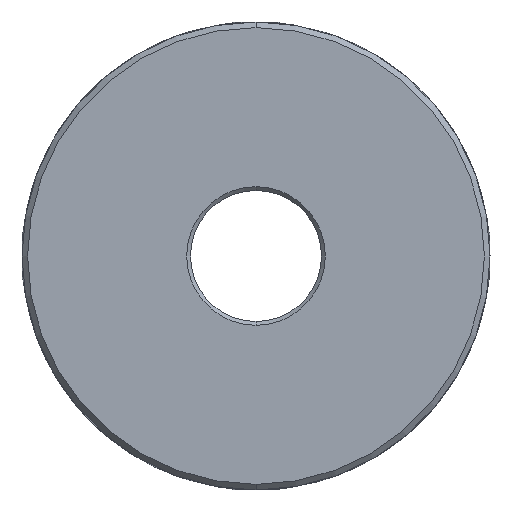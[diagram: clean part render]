
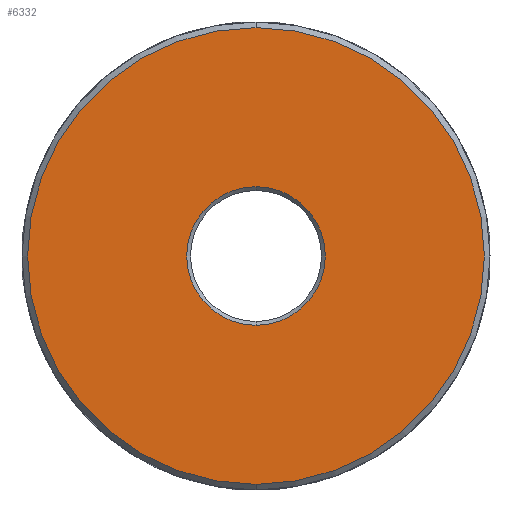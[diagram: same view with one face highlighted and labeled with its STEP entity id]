
A CAD part, front view. The second image highlights one B-rep face of the part: STEP entity #6332.
In plain terms, the highlighted planar face has unit normal (0, -1, 0).
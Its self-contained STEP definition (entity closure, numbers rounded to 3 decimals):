
#115 = DIRECTION ( 'NONE',  ( 0., 1., 0. ) ) ;
#365 = CARTESIAN_POINT ( 'NONE',  ( 0., 0., -24.4 ) ) ;
#1292 = AXIS2_PLACEMENT_3D ( 'NONE', #6620, #6666, #6071 ) ;
#1334 = PLANE ( 'NONE',  #7382 ) ;
#1614 = VERTEX_POINT ( 'NONE', #1770 ) ;
#1671 = EDGE_CURVE ( 'NONE', #1614, #7109, #6068, .T. ) ;
#1765 = FACE_OUTER_BOUND ( 'NONE', #5619, .T. ) ;
#1770 = CARTESIAN_POINT ( 'NONE',  ( 0., 0., 24.4 ) ) ;
#1772 = CIRCLE ( 'NONE', #1855, 7.4 ) ;
#1795 = ORIENTED_EDGE ( 'NONE', *, *, #5776, .T. ) ;
#1855 = AXIS2_PLACEMENT_3D ( 'NONE', #6924, #2771, #2270 ) ;
#1926 = EDGE_CURVE ( 'NONE', #3989, #6270, #2910, .T. ) ;
#1952 = DIRECTION ( 'NONE',  ( 0., 0., 1. ) ) ;
#2270 = DIRECTION ( 'NONE',  ( 0., 0., 1. ) ) ;
#2620 = DIRECTION ( 'NONE',  ( 0., 0., 1. ) ) ;
#2771 = DIRECTION ( 'NONE',  ( 0., 1., 0. ) ) ;
#2910 = CIRCLE ( 'NONE', #7391, 7.4 ) ;
#2945 = EDGE_CURVE ( 'NONE', #7109, #1614, #4715, .T. ) ;
#3142 = FACE_BOUND ( 'NONE', #4227, .T. ) ;
#3553 = CARTESIAN_POINT ( 'NONE',  ( 0., 0., -7.4 ) ) ;
#3711 = AXIS2_PLACEMENT_3D ( 'NONE', #6445, #5828, #3950 ) ;
#3950 = DIRECTION ( 'NONE',  ( 0., 0., 1. ) ) ;
#3989 = VERTEX_POINT ( 'NONE', #5207 ) ;
#4227 = EDGE_LOOP ( 'NONE', ( #1795, #7212 ) ) ;
#4408 = ORIENTED_EDGE ( 'NONE', *, *, #1671, .T. ) ;
#4715 = CIRCLE ( 'NONE', #1292, 24.4 ) ;
#5207 = CARTESIAN_POINT ( 'NONE',  ( 0., 0., 7.4 ) ) ;
#5619 = EDGE_LOOP ( 'NONE', ( #4408, #6274 ) ) ;
#5776 = EDGE_CURVE ( 'NONE', #6270, #3989, #1772, .T. ) ;
#5828 = DIRECTION ( 'NONE',  ( 0., -1., 0. ) ) ;
#6036 = CARTESIAN_POINT ( 'NONE',  ( -50., 0., 32.858 ) ) ;
#6068 = CIRCLE ( 'NONE', #3711, 24.4 ) ;
#6071 = DIRECTION ( 'NONE',  ( 0., 0., 1. ) ) ;
#6156 = CARTESIAN_POINT ( 'NONE',  ( 0., 0., 0. ) ) ;
#6270 = VERTEX_POINT ( 'NONE', #3553 ) ;
#6274 = ORIENTED_EDGE ( 'NONE', *, *, #2945, .T. ) ;
#6332 = ADVANCED_FACE ( 'NONE', ( #3142, #1765 ), #1334, .F. ) ;
#6445 = CARTESIAN_POINT ( 'NONE',  ( 0., 0., 0. ) ) ;
#6620 = CARTESIAN_POINT ( 'NONE',  ( 0., 0., 0. ) ) ;
#6666 = DIRECTION ( 'NONE',  ( 0., -1., 0. ) ) ;
#6924 = CARTESIAN_POINT ( 'NONE',  ( 0., 0., 0. ) ) ;
#7109 = VERTEX_POINT ( 'NONE', #365 ) ;
#7212 = ORIENTED_EDGE ( 'NONE', *, *, #1926, .T. ) ;
#7317 = DIRECTION ( 'NONE',  ( 0., 1., 0. ) ) ;
#7382 = AXIS2_PLACEMENT_3D ( 'NONE', #6036, #115, #1952 ) ;
#7391 = AXIS2_PLACEMENT_3D ( 'NONE', #6156, #7317, #2620 ) ;
